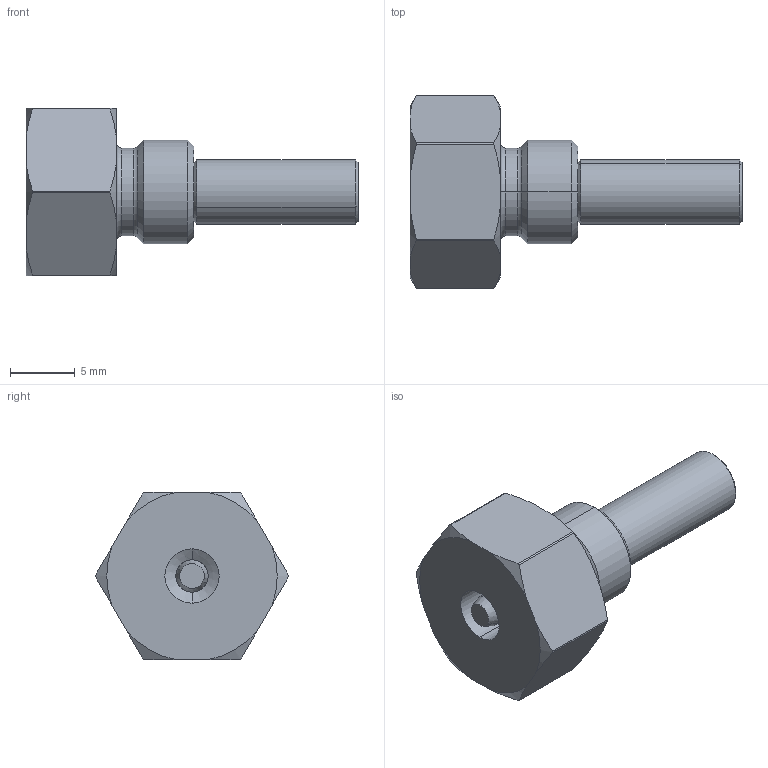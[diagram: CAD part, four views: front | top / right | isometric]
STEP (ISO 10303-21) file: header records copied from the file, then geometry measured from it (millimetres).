
FILE_DESCRIPTION (( 'STEP AP203' ), '1' );
FILE_NAME ('HC8,5.step', '2013-07-29T07:44:03', ( 'Wandfluh AG' ), ( 'Wandfluh AG' ), 'SwSTEP 2.0', 'SolidWorks 2012', '' );
FILE_SCHEMA (( 'CONFIG_CONTROL_DESIGN' ));
Length unit declared in the file: millimetre
Products named in the file (1): HC8,5
Bounding box: 25.7 x 14.93 x 13 mm (x, y, z)
Volume: 1428.6 mm3; surface area: 1482.6 mm2
Topology: 3 solids, 3 shells, 89 faces, 206 edges, 128 vertices
Faces by surface type: cylinder 28, cone 24, plane 17, torus 12, bspline 8
Entity records: 2785 total; most frequent: CARTESIAN_POINT 680, DIRECTION 454, ORIENTED_EDGE 412, EDGE_CURVE 206, AXIS2_PLACEMENT_3D 198, VERTEX_POINT 128, CIRCLE 116, EDGE_LOOP 98
